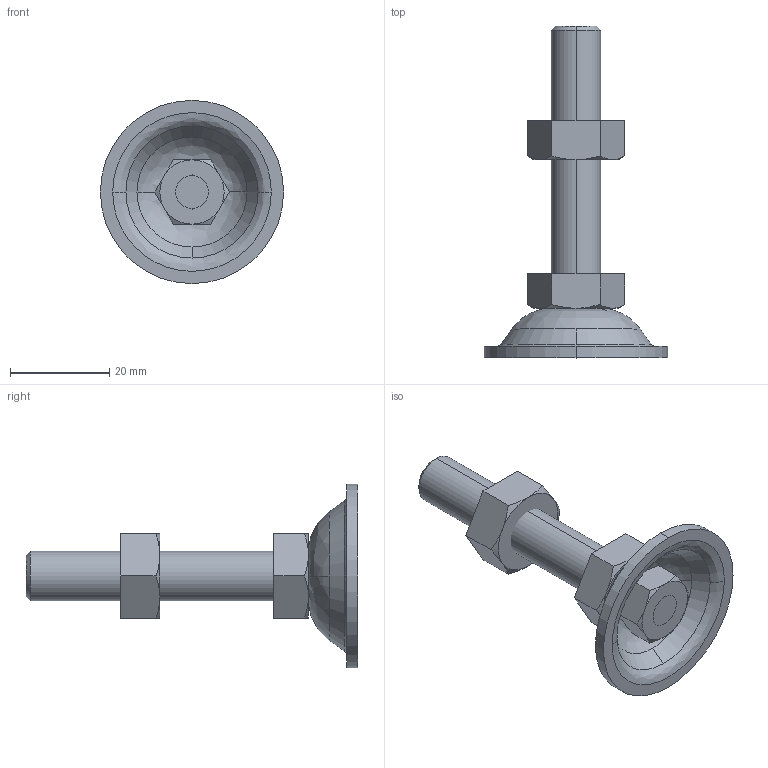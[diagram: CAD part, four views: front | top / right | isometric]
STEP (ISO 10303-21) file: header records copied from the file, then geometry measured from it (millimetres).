
FILE_DESCRIPTION (( 'STEP AP203' ), '1' );
FILE_NAME ('EA13-10050.STEP', '2013-09-20T05:34:19', ( 'SDS' ), ( 'SDS' ), 'SwSTEP 2.0', 'SolidWorks 2002296', '' );
FILE_SCHEMA (( 'CONFIG_CONTROL_DESIGN' ));
Length unit declared in the file: millimetre
Products named in the file (5): EA13-10050; EA13-100501_蹬怮椔; EA13-100502_蹬怮椔; EA13-100503_蹬怮椔; EA13-100504_蹬怮椔
Assembly tree (4 placements, depth 2):
  EA13-10050
    EA13-100501_蹬怮椔
    EA13-100504_蹬怮椔
    EA13-100502_蹬怮椔
    EA13-100503_蹬怮椔
Bounding box: 37 x 67 x 37 mm (x, y, z)
Volume: 11238.6 mm3; surface area: 7189.6 mm2
Topology: 4 solids, 4 shells, 82 faces, 182 edges, 112 vertices
Faces by surface type: cone 32, plane 30, cylinder 12, bspline 8
Entity records: 3101 total; most frequent: CARTESIAN_POINT 839, ORIENTED_EDGE 364, DIRECTION 364, EDGE_CURVE 182, AXIS2_PLACEMENT_3D 157, VERTEX_POINT 112, EDGE_LOOP 92, ADVANCED_FACE 82
